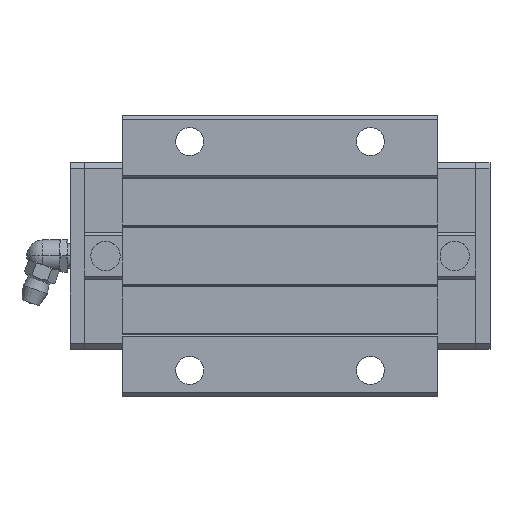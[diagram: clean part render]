
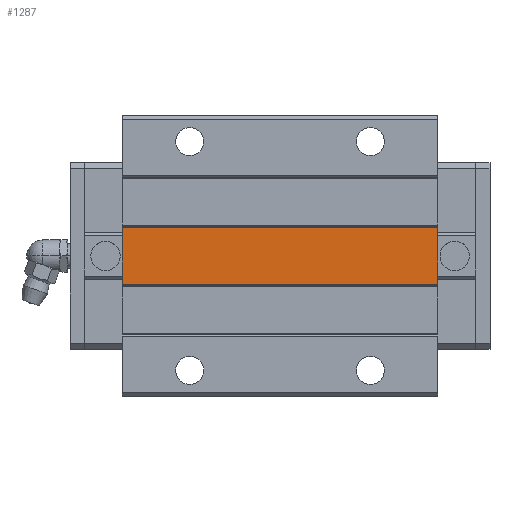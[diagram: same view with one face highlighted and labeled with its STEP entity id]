
A CAD part, top view. The second image highlights one B-rep face of the part: STEP entity #1287.
In plain terms, the highlighted planar face has unit normal (0, 0, 1).
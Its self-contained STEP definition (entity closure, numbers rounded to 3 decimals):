
#1226=CARTESIAN_POINT('POINT855',(91.6,-7.013,30.5));
#1227=VERTEX_POINT('VERTEX855',#1226);
#1234=CARTESIAN_POINT('POINT856',(13.,-7.013,30.5));
#1235=VERTEX_POINT('VERTEX856',#1234);
#1236=CARTESIAN_POINT('POS1445',(13.,-7.013,30.5));
#1237=DIRECTION('DIR2068',(1.,0.,0.));
#1238=VECTOR('VEC822',#1237,1.);
#1239=LINE('STRAIGHT822',#1236,#1238);
#1240=EDGE_CURVE('EDGE1283',#1235,#1227,#1239,.T.);
#1257=CARTESIAN_POINT('POINT857',(91.6,7.,30.5));
#1258=VERTEX_POINT('VERTEX857',#1257);
#1259=CARTESIAN_POINT('POS1448',(91.6,7.,30.5));
#1260=DIRECTION('DIR2072',(0.,1.,0.));
#1261=VECTOR('VEC824',#1260,1.);
#1262=LINE('STRAIGHT824',#1259,#1261);
#1263=EDGE_CURVE('EDGE1285',#1227,#1258,#1262,.T.);
#1264=ORIENTED_EDGE('COEDGE2509',*,*,#1263,.T.);
#1265=CARTESIAN_POINT('POINT858',(13.,7.,30.5));
#1266=VERTEX_POINT('VERTEX858',#1265);
#1267=CARTESIAN_POINT('POS1449',(13.,7.,30.5));
#1268=DIRECTION('DIR2073',(1.,0.,0.));
#1269=VECTOR('VEC825',#1268,1.);
#1270=LINE('STRAIGHT825',#1267,#1269);
#1271=EDGE_CURVE('EDGE1286',#1266,#1258,#1270,.T.);
#1272=ORIENTED_EDGE('COEDGE2510',*,*,#1271,.F.);
#1273=CARTESIAN_POINT('POS1450',(13.,7.,30.5));
#1274=DIRECTION('DIR2074',(0.,-1.,0.));
#1275=VECTOR('VEC826',#1274,1.);
#1276=LINE('STRAIGHT826',#1273,#1275);
#1277=EDGE_CURVE('EDGE1287',#1266,#1235,#1276,.T.);
#1278=ORIENTED_EDGE('COEDGE2511',*,*,#1277,.T.);
#1279=ORIENTED_EDGE('COEDGE2512',*,*,#1240,.T.);
#1280=EDGE_LOOP('NONE',(#1264,#1272,#1278,#1279));
#1281=FACE_BOUND('LOOP1',#1280,.T.);
#1282=CARTESIAN_POINT('POS1451',(13.,-7.013,30.5));
#1283=DIRECTION('DIR2075',(0.,0.,1.));
#1284=DIRECTION('DIR2076',(1.,0.,0.));
#1285=AXIS2_PLACEMENT_3D('AXIS625',#1282,#1283,#1284);
#1286=PLANE('PLANE268',#1285);
#1287=ADVANCED_FACE('FACE478',(#1281),#1286,.T.);
